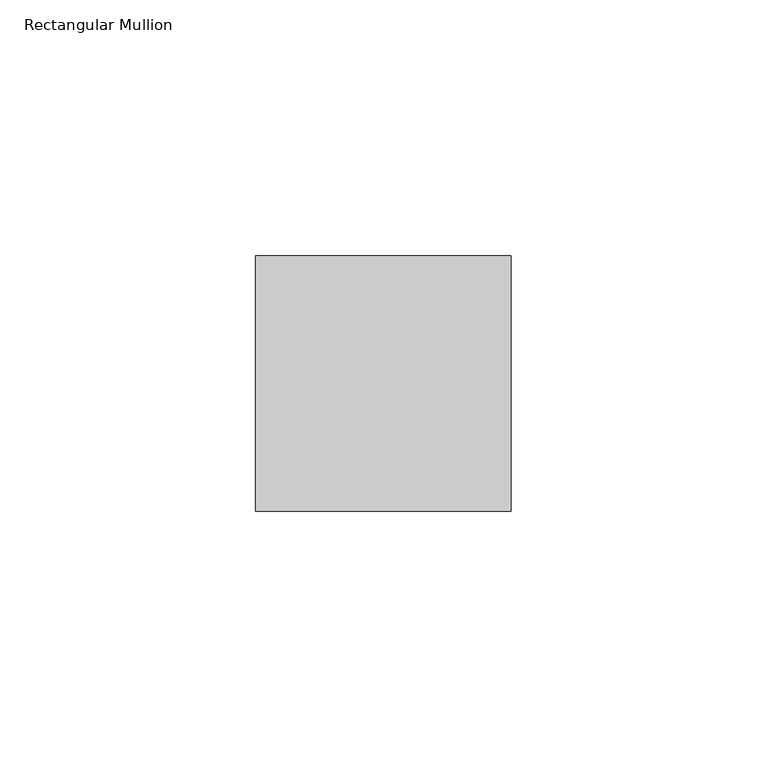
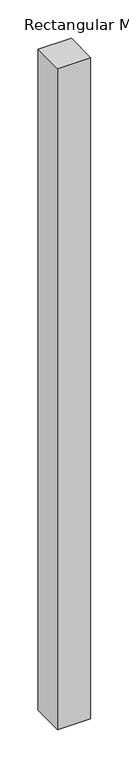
"""IFC4 building model written with IfcOpenShell, lengths in millimetres: member geometry, Rectangular Mullion : Mullion_Curtain Wall_Generic Showcase_50x50mm."""

from ifc_helpers import new_model, si_unit, frame, origin, place, context, project, spatial, polyline, outline, extrude, source, transform, mapped, element, save


def rectangular_mullion_f9ce9dc6(model_context):
    return source(origin(), model_context, "Body", "SweptSolid", [
        extrude(outline(polyline([(0.0, 50.0), (0.0, 0.0), (-50.0, 0.0), (-50.0, 50.0), (0.0, 50.0)])), frame((0.0, 0.0, -1050.0), z_axis=(0.0, 0.0, 1.0), x_axis=(1.0, 0.0, 0.0)), (0.0, 0.0, 1.0), 1050.0),
    ])


if __name__ == "__main__":
    model = new_model("IFC4")
    model_context = context("Model", 3, world=origin())
    ifc_project = project(units=[si_unit("LENGTHUNIT", "METRE", prefix="MILLI")], contexts=[model_context])
    site = spatial("IfcSite", under=ifc_project)
    building = spatial("IfcBuilding", under=site)
    placement = place(None, origin())
    rectangular_mullion_shape = rectangular_mullion_f9ce9dc6(model_context)
    element("IfcMember", 1, ObjectType="Rectangular Mullion : Mullion_Curtain Wall_Generic Showcase_50x50mm", at=placement, inside=building, context=model_context, shape_type="MappedRepresentation", body=[
        mapped(rectangular_mullion_shape, transform((0.0, 0.0, 0.0), x_axis=(1.0, 0.0, 0.0), y_axis=(0.0, 1.0, 0.0), z_axis=(0.0, 0.0, 1.0))),
    ])
    save(model, "model.ifc")
